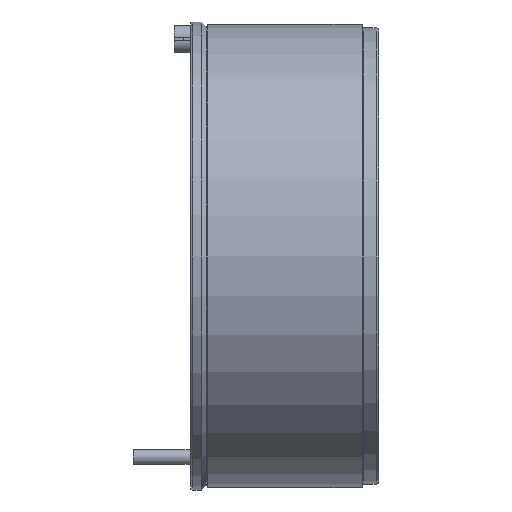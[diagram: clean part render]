
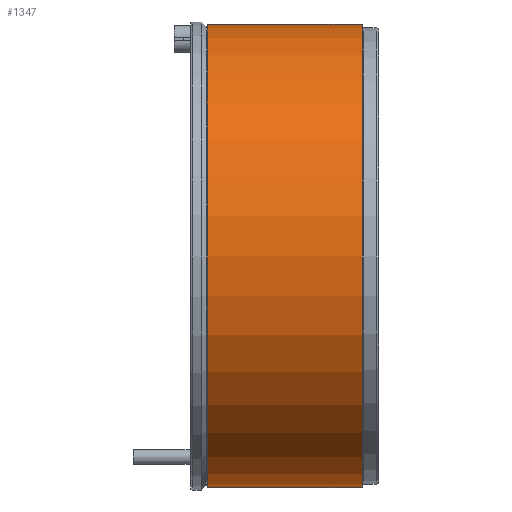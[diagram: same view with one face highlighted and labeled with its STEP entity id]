
A CAD part, left-side view. The second image highlights one B-rep face of the part: STEP entity #1347.
In plain terms, the highlighted cylindrical face has radius 197.5 mm (diameter 395 mm), a partial arc.
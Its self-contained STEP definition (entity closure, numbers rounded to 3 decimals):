
#440 = ORIENTED_EDGE ( 'NONE', *, *, #11014, .F. ) ;
#800 = CARTESIAN_POINT ( 'NONE',  ( 0., 14., -197.5 ) ) ;
#1227 = AXIS2_PLACEMENT_3D ( 'NONE', #3733, #9172, #9126 ) ;
#1347 = ADVANCED_FACE ( 'NONE', ( #13332 ), #1783, .T. ) ;
#1409 = CIRCLE ( 'NONE', #2337, 197.5 ) ;
#1675 = VERTEX_POINT ( 'NONE', #2847 ) ;
#1783 = CYLINDRICAL_SURFACE ( 'NONE', #5833, 197.5 ) ;
#2337 = AXIS2_PLACEMENT_3D ( 'NONE', #10364, #5157, #12625 ) ;
#2591 = EDGE_LOOP ( 'NONE', ( #440, #9439, #11089, #13806 ) ) ;
#2847 = CARTESIAN_POINT ( 'NONE',  ( 0., 146., 197.5 ) ) ;
#3314 = DIRECTION ( 'NONE',  ( 0., 0., -1. ) ) ;
#3733 = CARTESIAN_POINT ( 'NONE',  ( 0., 14., 0. ) ) ;
#4088 = DIRECTION ( 'NONE',  ( 0., -1., 0. ) ) ;
#4466 = DIRECTION ( 'NONE',  ( 0., -1., 0. ) ) ;
#5157 = DIRECTION ( 'NONE',  ( 0., -1., 0. ) ) ;
#5833 = AXIS2_PLACEMENT_3D ( 'NONE', #9720, #4466, #3314 ) ;
#6019 = LINE ( 'NONE', #10765, #13164 ) ;
#6222 = VERTEX_POINT ( 'NONE', #11976 ) ;
#6775 = EDGE_CURVE ( 'NONE', #1675, #13151, #1409, .T. ) ;
#8608 = DIRECTION ( 'NONE',  ( 0., -1., 0. ) ) ;
#8682 = VECTOR ( 'NONE', #8608, 1000. ) ;
#8707 = VERTEX_POINT ( 'NONE', #800 ) ;
#9126 = DIRECTION ( 'NONE',  ( 0., 0., -1. ) ) ;
#9172 = DIRECTION ( 'NONE',  ( 0., -1., 0. ) ) ;
#9439 = ORIENTED_EDGE ( 'NONE', *, *, #6775, .T. ) ;
#9550 = EDGE_CURVE ( 'NONE', #13151, #8707, #6019, .T. ) ;
#9720 = CARTESIAN_POINT ( 'NONE',  ( 0., 0., 0. ) ) ;
#10364 = CARTESIAN_POINT ( 'NONE',  ( 0., 146., 0. ) ) ;
#10765 = CARTESIAN_POINT ( 'NONE',  ( 0., 0., -197.5 ) ) ;
#11014 = EDGE_CURVE ( 'NONE', #1675, #6222, #11428, .T. ) ;
#11089 = ORIENTED_EDGE ( 'NONE', *, *, #9550, .T. ) ;
#11428 = LINE ( 'NONE', #13059, #8682 ) ;
#11976 = CARTESIAN_POINT ( 'NONE',  ( 0., 14., 197.5 ) ) ;
#12411 = CARTESIAN_POINT ( 'NONE',  ( 0., 146., -197.5 ) ) ;
#12541 = EDGE_CURVE ( 'NONE', #6222, #8707, #13963, .T. ) ;
#12625 = DIRECTION ( 'NONE',  ( 0., 0., -1. ) ) ;
#13059 = CARTESIAN_POINT ( 'NONE',  ( 0., 0., 197.5 ) ) ;
#13151 = VERTEX_POINT ( 'NONE', #12411 ) ;
#13164 = VECTOR ( 'NONE', #4088, 1000. ) ;
#13332 = FACE_OUTER_BOUND ( 'NONE', #2591, .T. ) ;
#13806 = ORIENTED_EDGE ( 'NONE', *, *, #12541, .F. ) ;
#13963 = CIRCLE ( 'NONE', #1227, 197.5 ) ;
